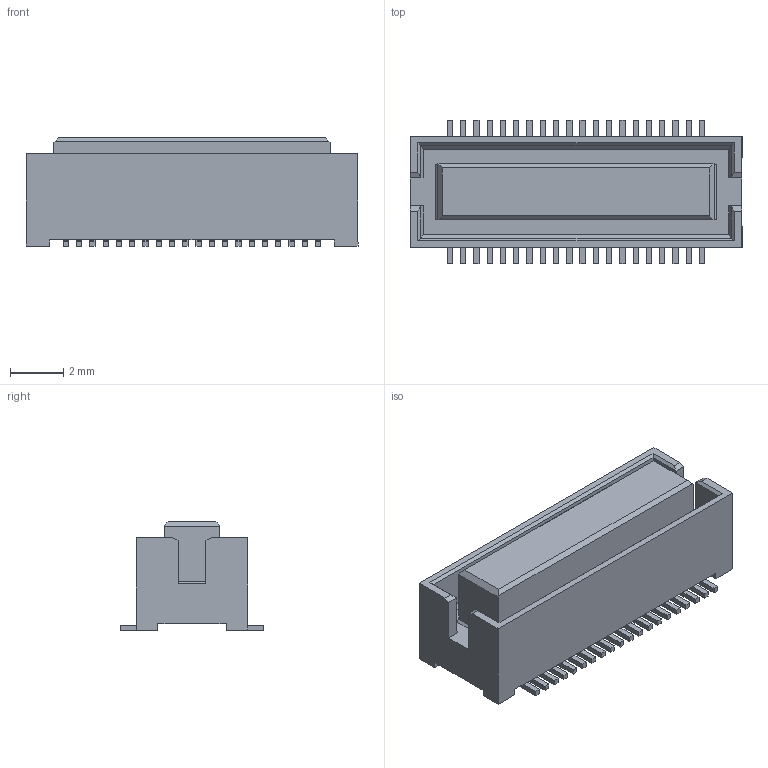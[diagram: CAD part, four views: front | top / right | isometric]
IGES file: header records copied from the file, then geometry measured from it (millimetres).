
Start section: START RECORD GO HERE.
Global section: file name: 20_5047_040_400_xxx_+.igs; native system: IBM CATIA IGES - CATIA Version 5 Release 14 ; preprocessor: CATIA Version 5 Release 14 ; author: Engineering Dept.; organization: KYOCERA ELCO Corporation; date: 20100908.094612; units: millimetre
Bounding box: 12.5 x 5.4 x 4.1 mm (x, y, z)
Surface area: 360.8 mm2 (no closed solid volume)
Topology: 0 solids, 417 shells, 417 faces, 2240 edges, 2240 vertices
Faces by surface type: plane 257, revolution 160
